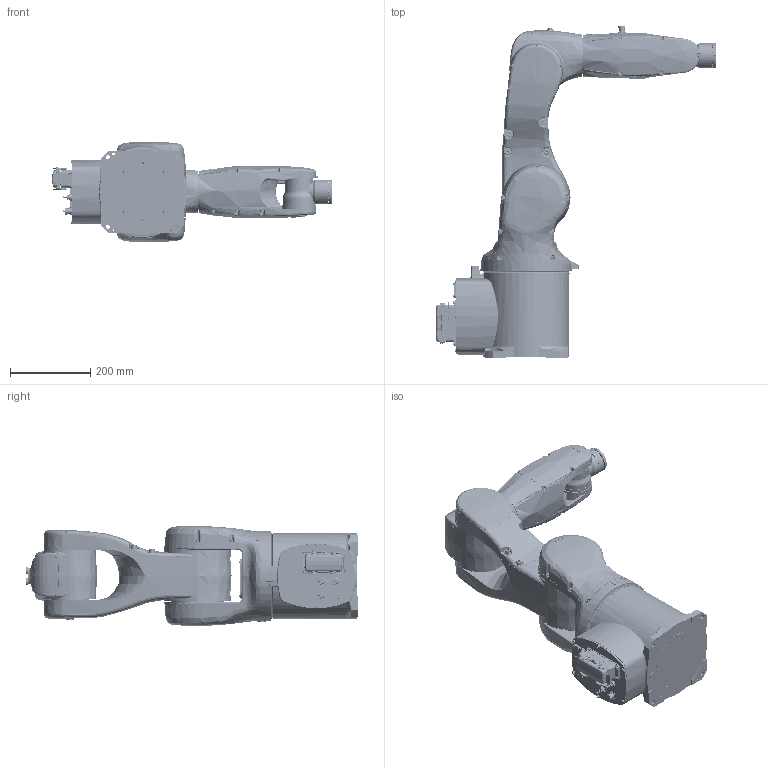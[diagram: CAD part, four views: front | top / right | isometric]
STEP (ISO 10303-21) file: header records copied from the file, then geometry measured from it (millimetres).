
FILE_DESCRIPTION(('STEP AP214'),'1');
FILE_NAME('TSR071-06.stp','2020-05-11T05:55:29',(' '),(' '),'Spatial InterOp 3D',' ',' ');
FILE_SCHEMA(('AUTOMOTIVE_DESIGN { 1 0 10303 214 1 1 1 1 }'));
Length unit declared in the file: millimetre
Products named in the file (7): TSR071-06; Link2-AIR6-2______; Link0-AIR6-________; Link1-AIR6-1______; Link5-AIR6-6______; Link3-AIR6-4______; Link4-AIR6-5______
Assembly tree (6 placements, depth 2):
  TSR071-06
    Link2-AIR6-2______
    Link0-AIR6-________
    Link1-AIR6-1______
    Link5-AIR6-6______
    Link3-AIR6-4______
    Link4-AIR6-5______
Bounding box: 696.86 x 827 x 251.46 mm (x, y, z)
Volume: 9010003.7 mm3; surface area: 2234685.8 mm2
Topology: 5 solids, 3837 shells, 10917 faces, 36796 edges, 29872 vertices
Faces by surface type: plane 4532, cylinder 3469, bspline 1447, cone 916, torus 471, sphere 82
Entity records: 787757 total; most frequent: CARTESIAN_POINT 373024, DIRECTION 54833, ORIENTED_EDGE 53098, EDGE_CURVE 36209, VERTEX_POINT 29872, AXIS2_PLACEMENT_3D 19707, LINE 15419, VECTOR 15419
